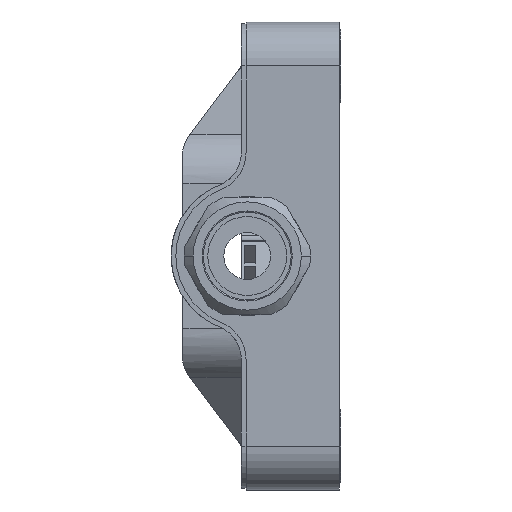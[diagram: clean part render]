
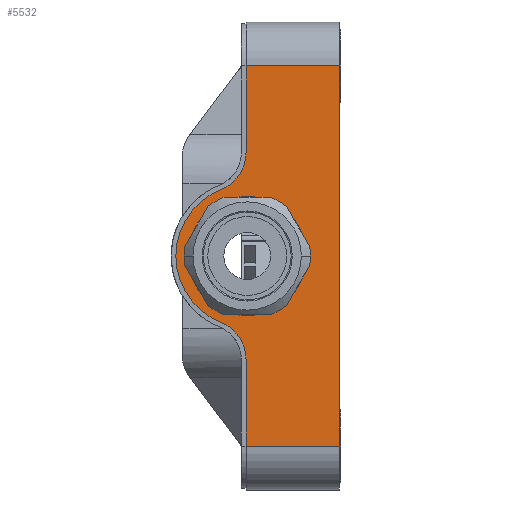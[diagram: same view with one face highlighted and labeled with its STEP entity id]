
A CAD part, left-side view. The second image highlights one B-rep face of the part: STEP entity #5532.
In plain terms, the highlighted planar face has unit normal (-1, 0, 0).
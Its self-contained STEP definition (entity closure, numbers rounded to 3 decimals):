
#2586=VERTEX_POINT('',#7617);
#3196=EDGE_CURVE('',#6978,#2586,#8303,.T.);
#3246=EDGE_CURVE('',#5050,#7454,#8357,.T.);
#3720=EDGE_CURVE('',#7254,#2586,#8877,.T.);
#4288=EDGE_CURVE('',#7206,#4672,#9507,.T.);
#4304=VERTEX_POINT('',#9524);
#4454=VERTEX_POINT('',#9690);
#4672=VERTEX_POINT('',#9934);
#5050=VERTEX_POINT('',#10339);
#5532=ADVANCED_FACE('',(#10863,#10864),#10865,.T.);
#5964=EDGE_CURVE('',#5050,#4454,#11348,.T.);
#6168=EDGE_CURVE('',#4304,#6666,#11571,.T.);
#6216=EDGE_CURVE('',#6666,#4304,#11623,.T.);
#6520=EDGE_CURVE('',#7454,#6978,#11955,.T.);
#6666=VERTEX_POINT('',#12116);
#6978=VERTEX_POINT('',#12475);
#7046=EDGE_CURVE('',#7206,#4454,#12549,.T.);
#7206=VERTEX_POINT('',#12724);
#7254=VERTEX_POINT('',#12778);
#7454=VERTEX_POINT('',#13003);
#7468=EDGE_CURVE('',#4672,#7254,#13018,.T.);
#7617=CARTESIAN_POINT('',(0.0,0.2,17.664));
#8303=CIRCLE('',#14159,6.8);
#8357=CIRCLE('',#14243,6.8);
#8877=LINE('',#14980,#14981);
#9507=LINE('',#15877,#15878);
#9524=CARTESIAN_POINT('',(0.0,10.2,0.));
#9690=CARTESIAN_POINT('',(0.0,0.2,-32.5));
#9934=CARTESIAN_POINT('',(0.0,-15.7,32.5));
#10339=CARTESIAN_POINT('',(0.0,0.2,-17.664));
#10863=FACE_OUTER_BOUND('',#17738,.T.);
#10864=FACE_BOUND('',#17739,.T.);
#10865=PLANE('',#17740);
#11348=LINE('',#18381,#18382);
#11571=CIRCLE('',#18690,10.2);
#11623=CIRCLE('',#18765,10.2);
#11955=CIRCLE('',#19214,12.2);
#12116=CARTESIAN_POINT('',(0.0,-10.2,0.));
#12475=CARTESIAN_POINT('',(0.0,4.495,11.342));
#12549=LINE('',#20042,#20043);
#12724=CARTESIAN_POINT('',(0.0,-15.7,-32.5));
#12778=CARTESIAN_POINT('',(0.0,0.2,32.5));
#13003=CARTESIAN_POINT('',(0.0,4.495,-11.342));
#13018=LINE('',#20707,#20708);
#14159=AXIS2_PLACEMENT_3D('',#21785,#21786,#21787);
#14243=AXIS2_PLACEMENT_3D('',#21864,#21865,#21866);
#14980=CARTESIAN_POINT('',(0.0,0.2,32.5));
#14981=VECTOR('',#22446,14.836);
#15877=CARTESIAN_POINT('',(0.0,-15.7,-32.5));
#15878=VECTOR('',#23198,65.0);
#17738=EDGE_LOOP('',(#24588,#24589,#24590,#24591,#24592,#24593,#24594,#24595));
#17739=EDGE_LOOP('',(#24596,#24597));
#17740=AXIS2_PLACEMENT_3D('',#24598,#24599,#24600);
#18381=CARTESIAN_POINT('',(0.0,0.2,-17.664));
#18382=VECTOR('',#25199,14.836);
#18690=AXIS2_PLACEMENT_3D('',#25424,#25425,#25426);
#18765=AXIS2_PLACEMENT_3D('',#25475,#25476,#25477);
#19214=AXIS2_PLACEMENT_3D('',#25836,#25837,#25838);
#20042=CARTESIAN_POINT('',(0.0,-15.7,-32.5));
#20043=VECTOR('',#26533,15.9);
#20707=CARTESIAN_POINT('',(0.0,-15.7,32.5));
#20708=VECTOR('',#27071,15.9);
#21785=CARTESIAN_POINT('',(0.0,7.,17.664));
#21786=DIRECTION('',(-1.0,-0.0,0.0));
#21787=DIRECTION('',(0.0,-0.368,-0.93));
#21864=CARTESIAN_POINT('',(0.0,7.,-17.664));
#21865=DIRECTION('',(-1.0,0.0,0.0));
#21866=DIRECTION('',(0.0,-1.0,0.0));
#22446=DIRECTION('',(0.0,0.0,-1.0));
#23198=DIRECTION('',(0.0,0.0,1.0));
#24588=ORIENTED_EDGE('',*,*,#3720,.T.);
#24589=ORIENTED_EDGE('',*,*,#3196,.F.);
#24590=ORIENTED_EDGE('',*,*,#6520,.F.);
#24591=ORIENTED_EDGE('',*,*,#3246,.F.);
#24592=ORIENTED_EDGE('',*,*,#5964,.T.);
#24593=ORIENTED_EDGE('',*,*,#7046,.F.);
#24594=ORIENTED_EDGE('',*,*,#4288,.T.);
#24595=ORIENTED_EDGE('',*,*,#7468,.T.);
#24596=ORIENTED_EDGE('',*,*,#6216,.T.);
#24597=ORIENTED_EDGE('',*,*,#6168,.T.);
#24598=CARTESIAN_POINT('',(0.0,-15.7,32.5));
#24599=DIRECTION('',(-1.0,0.0,0.0));
#24600=DIRECTION('',(0.0,0.0,1.0));
#25199=DIRECTION('',(0.0,0.0,-1.0));
#25424=CARTESIAN_POINT('',(0.0,0.0,0.0));
#25425=DIRECTION('',(1.0,0.0,0.0));
#25426=DIRECTION('',(0.0,1.0,0.0));
#25475=CARTESIAN_POINT('',(0.0,0.0,0.0));
#25476=DIRECTION('',(1.0,0.0,0.0));
#25477=DIRECTION('',(0.0,1.0,0.0));
#25836=CARTESIAN_POINT('',(0.0,0.,0.));
#25837=DIRECTION('',(1.0,0.0,0.0));
#25838=DIRECTION('',(0.0,0.368,-0.93));
#26533=DIRECTION('',(0.0,1.0,0.0));
#27071=DIRECTION('',(0.0,1.0,0.0));
